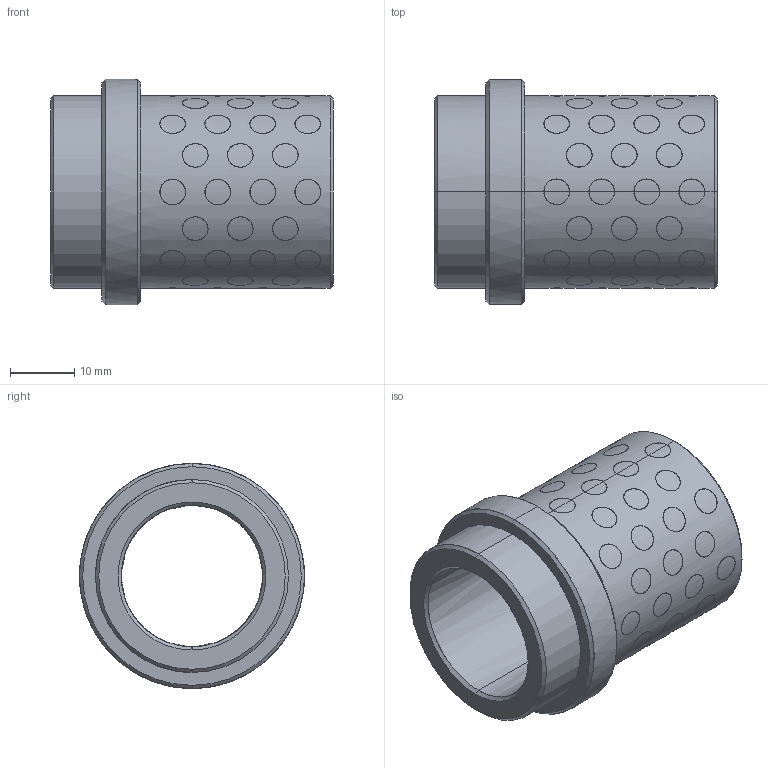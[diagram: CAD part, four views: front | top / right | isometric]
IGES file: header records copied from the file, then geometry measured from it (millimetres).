
Start section: START RECORD GO HERE.
Global section: file name: G31222036.igs; native system: DASSAULT SYSTEMES CATIA V5 R20 - www.3ds.com; preprocessor: CATIA Version 5 Release 20 ; author: r.borello; organization: CFTORINO; date: 20190624.121517; units: millimetre
Bounding box: 44 x 35 x 35 mm (x, y, z)
Surface area: 13878.8 mm2 (no closed solid volume)
Topology: 0 solids, 0 shells, 376 faces, 1632 edges, 1632 vertices
Faces by surface type: revolution 372, plane 4
